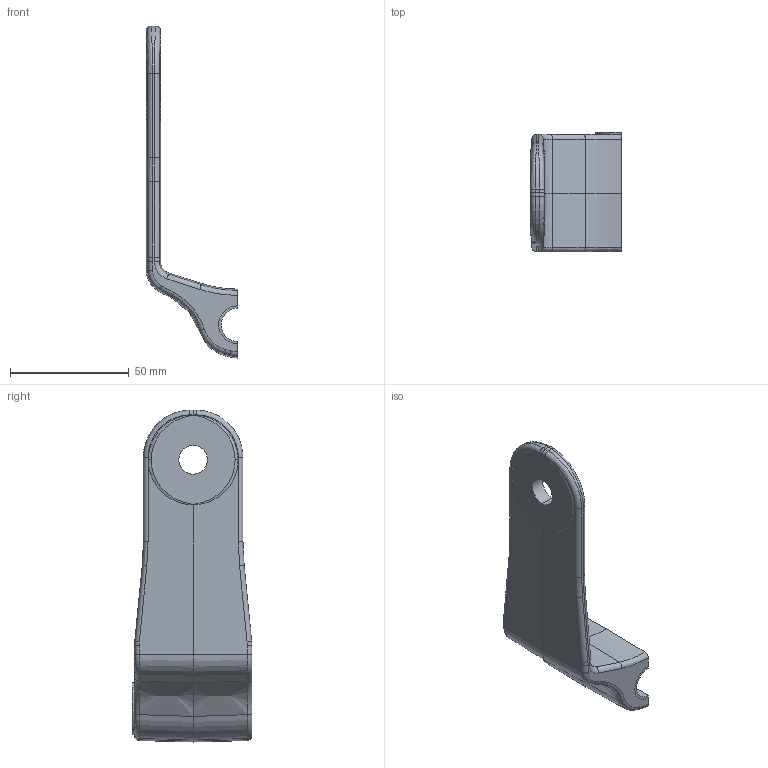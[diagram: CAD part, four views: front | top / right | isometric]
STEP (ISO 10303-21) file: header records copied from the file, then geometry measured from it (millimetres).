
FILE_DESCRIPTION((''),'2;1');
FILE_NAME('RG_HI_ASM','2020-04-01T',('pkloninger'),(''),'CREO PARAMETRIC BY PTC INC, 2017020','CREO PARAMETRIC BY PTC INC, 2017020','');
FILE_SCHEMA(('CONFIG_CONTROL_DESIGN'));
Length unit declared in the file: millimetre
Products named in the file (4): RG_HI; GL_O; GL_U; RG_HI_ASM
Assembly tree (3 placements, depth 2):
  RG_HI_ASM
    RG_HI
    GL_O
    GL_U
Bounding box: 38.5 x 50.5 x 140 mm (x, y, z)
Volume: 50986.1 mm3; surface area: 18713.9 mm2
Topology: 3 solids, 5 shells, 114 faces, 281 edges, 175 vertices
Faces by surface type: cylinder 40, plane 32, bspline 20, torus 16, cone 6
Entity records: 5072 total; most frequent: CARTESIAN_POINT 2393, ORIENTED_EDGE 552, DIRECTION 524, EDGE_CURVE 281, AXIS2_PLACEMENT_3D 208, VERTEX_POINT 175, EDGE_LOOP 116, FACE_OUTER_BOUND 114
